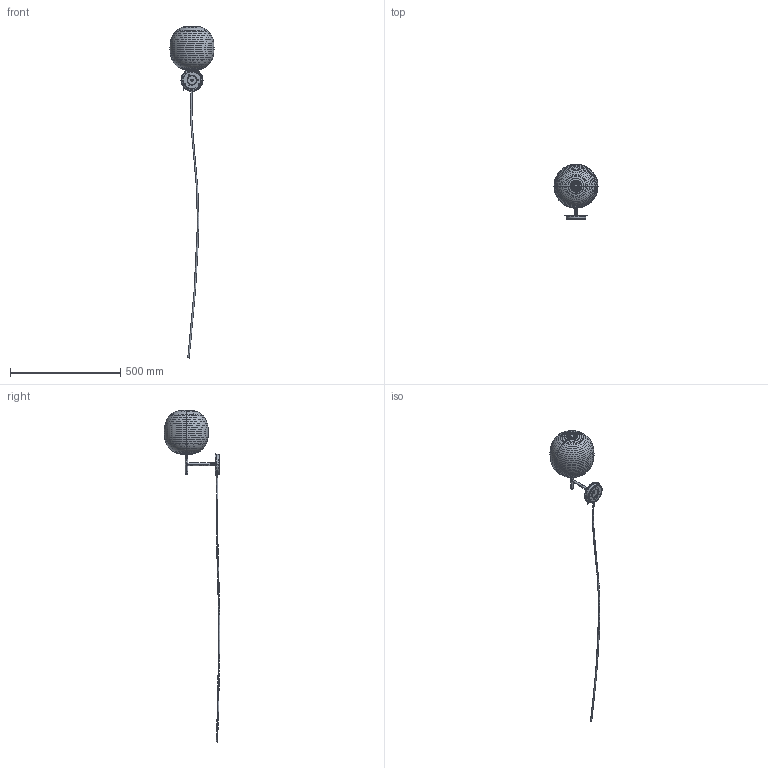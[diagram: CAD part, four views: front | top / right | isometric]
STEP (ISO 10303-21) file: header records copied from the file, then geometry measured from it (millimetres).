
FILE_DESCRIPTION(/* description */ (''),/* implementation_level */ '2;1');
FILE_NAME(/* name */ 'Lantern Wall Lamp',/* time_stamp */ '2019-04-16T13:00:32+02:00',/* author */ (''),/* organization */ (''),/* preprocessor_version */ 'ST-DEVELOPER v15',/* originating_system */ '',/* authorisation */ '');
FILE_SCHEMA (('AUTOMOTIVE_DESIGN'));
Length unit declared in the file: millimetre
Products named in the file (3): Document; 5_5_2; DENGPAO
Assembly tree (2 placements, depth 2):
  Document
    5_5_2
    DENGPAO
Bounding box: 200.51 x 251.61 x 1508.29 mm (x, y, z)
Volume: 451657.9 mm3; surface area: 384449.5 mm2
Topology: 21 solids, 21 shells, 871 faces, 2159 edges, 1333 vertices
Faces by surface type: bspline 754, plane 117
Entity records: 63740 total; most frequent: CARTESIAN_POINT 51219, ORIENTED_EDGE 4296, EDGE_CURVE 2148, B_SPLINE_CURVE_WITH_KNOTS 1356, VERTEX_POINT 1331, EDGE_LOOP 939, ADVANCED_FACE 871, FACE_OUTER_BOUND 871
